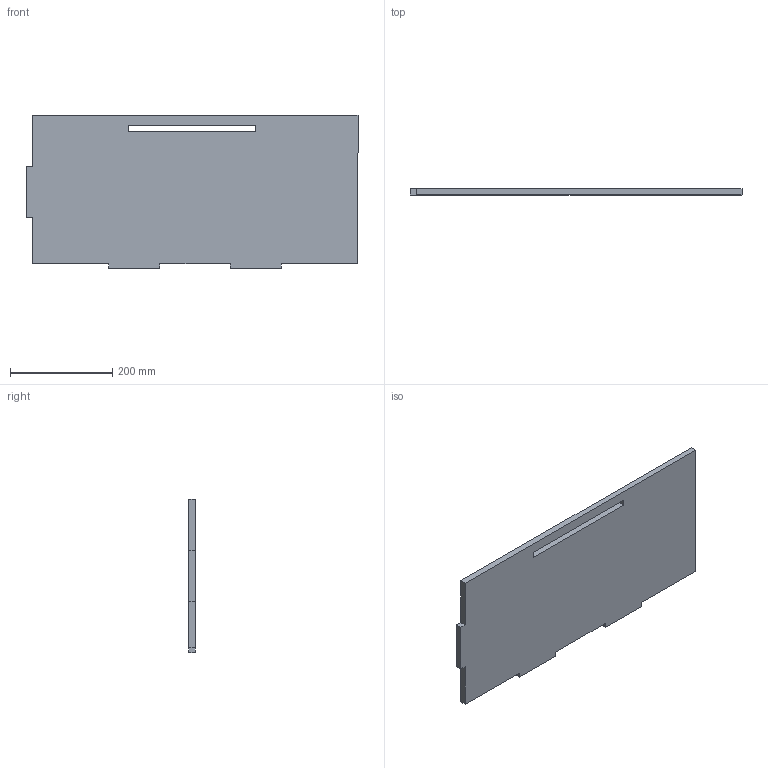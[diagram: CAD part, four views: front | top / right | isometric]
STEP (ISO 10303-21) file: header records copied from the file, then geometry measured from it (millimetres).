
FILE_DESCRIPTION (( 'STEP AP214' ), '1' );
FILE_NAME ('new d.STEP', '2024-10-17T16:00:44', ( '' ), ( '' ), 'SwSTEP 2.0', 'SolidWorks 2020', '' );
FILE_SCHEMA (( 'AUTOMOTIVE_DESIGN' ));
Length unit declared in the file: millimetre
Products named in the file (1): new d
Bounding box: 650 x 12 x 300 mm (x, y, z)
Volume: 2224395 mm3; surface area: 400052.5 mm2
Topology: 1 solids, 1 shells, 22 faces, 60 edges, 40 vertices
Faces by surface type: plane 22
Entity records: 722 total; most frequent: CARTESIAN_POINT 123, ORIENTED_EDGE 120, DIRECTION 106, LINE 60, EDGE_CURVE 60, VECTOR 60, VERTEX_POINT 40, EDGE_LOOP 24
